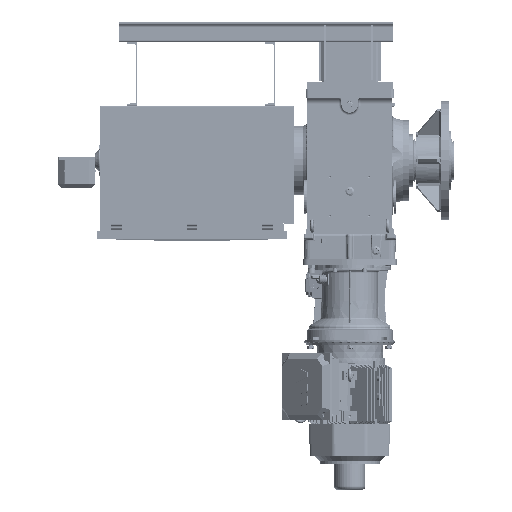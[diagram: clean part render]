
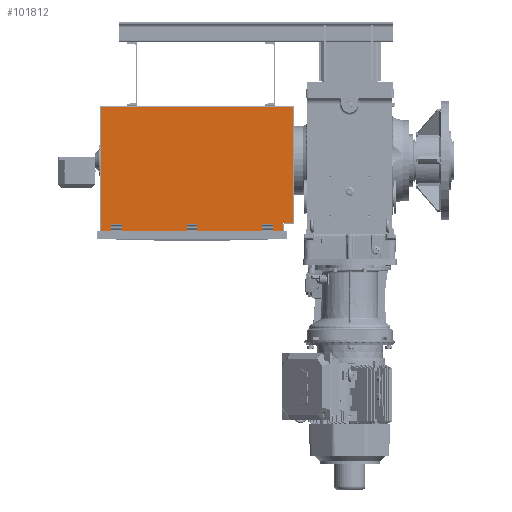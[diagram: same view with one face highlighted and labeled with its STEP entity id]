
A CAD part, top view. The second image highlights one B-rep face of the part: STEP entity #101812.
In plain terms, the highlighted planar face has unit normal (0, 0, 1).
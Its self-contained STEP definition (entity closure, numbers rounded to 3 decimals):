
#4057=LINE('',#155321,#11399);
#4074=LINE('',#155366,#11416);
#4076=LINE('',#155370,#11418);
#4077=LINE('',#155372,#11419);
#4115=LINE('',#155479,#11457);
#4132=LINE('',#155524,#11474);
#4134=LINE('',#155528,#11476);
#4135=LINE('',#155530,#11477);
#4144=LINE('',#155558,#11486);
#4161=LINE('',#155603,#11503);
#4163=LINE('',#155607,#11505);
#4164=LINE('',#155609,#11506);
#4279=LINE('',#155970,#11621);
#4322=LINE('',#156074,#11664);
#4327=LINE('',#156082,#11669);
#4340=LINE('',#156116,#11682);
#4343=LINE('',#156121,#11685);
#4360=LINE('',#156154,#11702);
#4366=LINE('',#156169,#11708);
#4368=LINE('',#156173,#11710);
#4370=LINE('',#156177,#11712);
#4372=LINE('',#156180,#11714);
#4373=LINE('',#156183,#11715);
#4375=LINE('',#156187,#11717);
#4376=LINE('',#156189,#11718);
#4377=LINE('',#156190,#11719);
#11399=VECTOR('',#122782,40.);
#11416=VECTOR('',#122825,40.);
#11418=VECTOR('',#122829,40.);
#11419=VECTOR('',#122832,40.);
#11457=VECTOR('',#122936,40.);
#11474=VECTOR('',#122979,40.);
#11476=VECTOR('',#122983,40.);
#11477=VECTOR('',#122986,40.);
#11486=VECTOR('',#123013,40.);
#11503=VECTOR('',#123056,40.);
#11505=VECTOR('',#123060,40.);
#11506=VECTOR('',#123063,40.);
#11621=VECTOR('',#123400,0.992);
#11664=VECTOR('',#123497,0.992);
#11669=VECTOR('',#123504,596.);
#11682=VECTOR('',#123539,50.);
#11685=VECTOR('',#123544,40.);
#11702=VECTOR('',#123571,49.016);
#11708=VECTOR('',#123593,1.984);
#11710=VECTOR('',#123597,2.976);
#11712=VECTOR('',#123601,2.976);
#11714=VECTOR('',#123605,1.984);
#11715=VECTOR('',#123608,51.016);
#11717=VECTOR('',#123612,448.016);
#11718=VECTOR('',#123613,740.);
#11719=VECTOR('',#123614,498.016);
#19113=PLANE('',#108635);
#21407=FACE_BOUND('',#30188,.T.);
#21408=FACE_BOUND('',#30189,.T.);
#21409=FACE_BOUND('',#30190,.T.);
#24025=FACE_OUTER_BOUND('',#30187,.T.);
#30187=EDGE_LOOP('',(#73394,#73395,#73396,#73397,#73398,#73399,#73400,#73401,
#73402,#73403,#73404,#73405,#73406,#73407));
#30188=EDGE_LOOP('',(#73408,#73409,#73410,#73411));
#30189=EDGE_LOOP('',(#73412,#73413,#73414,#73415));
#30190=EDGE_LOOP('',(#73416,#73417,#73418,#73419));
#44056=VERTEX_POINT('',#155319);
#44057=VERTEX_POINT('',#155320);
#44072=VERTEX_POINT('',#155364);
#44073=VERTEX_POINT('',#155368);
#44108=VERTEX_POINT('',#155477);
#44109=VERTEX_POINT('',#155478);
#44124=VERTEX_POINT('',#155522);
#44125=VERTEX_POINT('',#155526);
#44134=VERTEX_POINT('',#155556);
#44135=VERTEX_POINT('',#155557);
#44150=VERTEX_POINT('',#155601);
#44151=VERTEX_POINT('',#155605);
#44285=VERTEX_POINT('',#155967);
#44286=VERTEX_POINT('',#155969);
#44319=VERTEX_POINT('',#156071);
#44320=VERTEX_POINT('',#156073);
#44331=VERTEX_POINT('',#156114);
#44332=VERTEX_POINT('',#156115);
#44333=VERTEX_POINT('',#156120);
#44344=VERTEX_POINT('',#156153);
#44345=VERTEX_POINT('',#156168);
#44346=VERTEX_POINT('',#156172);
#44347=VERTEX_POINT('',#156176);
#44348=VERTEX_POINT('',#156182);
#44349=VERTEX_POINT('',#156186);
#44350=VERTEX_POINT('',#156188);
#54812=EDGE_CURVE('',#44056,#44057,#4057,.T.);
#54835=EDGE_CURVE('',#44057,#44072,#4074,.T.);
#54837=EDGE_CURVE('',#44073,#44056,#4076,.T.);
#54838=EDGE_CURVE('',#44072,#44073,#4077,.T.);
#54890=EDGE_CURVE('',#44108,#44109,#4115,.T.);
#54913=EDGE_CURVE('',#44109,#44124,#4132,.T.);
#54915=EDGE_CURVE('',#44125,#44108,#4134,.T.);
#54916=EDGE_CURVE('',#44124,#44125,#4135,.T.);
#54929=EDGE_CURVE('',#44134,#44135,#4144,.T.);
#54952=EDGE_CURVE('',#44135,#44150,#4161,.T.);
#54954=EDGE_CURVE('',#44151,#44134,#4163,.T.);
#54955=EDGE_CURVE('',#44150,#44151,#4164,.T.);
#55132=EDGE_CURVE('',#44286,#44285,#4279,.T.);
#55188=EDGE_CURVE('',#44320,#44319,#4322,.T.);
#55193=EDGE_CURVE('',#44319,#44286,#4327,.T.);
#55210=EDGE_CURVE('',#44331,#44332,#4340,.T.);
#55213=EDGE_CURVE('',#44332,#44333,#4343,.T.);
#55230=EDGE_CURVE('',#44331,#44344,#4360,.T.);
#55236=EDGE_CURVE('',#44345,#44320,#4366,.T.);
#55238=EDGE_CURVE('',#44346,#44345,#4368,.T.);
#55240=EDGE_CURVE('',#44347,#44344,#4370,.T.);
#55242=EDGE_CURVE('',#44285,#44347,#4372,.T.);
#55243=EDGE_CURVE('',#44346,#44348,#4373,.T.);
#55245=EDGE_CURVE('',#44349,#44333,#4375,.T.);
#55246=EDGE_CURVE('',#44350,#44349,#4376,.T.);
#55247=EDGE_CURVE('',#44348,#44350,#4377,.T.);
#73394=ORIENTED_EDGE('',*,*,#55213,.T.);
#73395=ORIENTED_EDGE('',*,*,#55245,.F.);
#73396=ORIENTED_EDGE('',*,*,#55246,.F.);
#73397=ORIENTED_EDGE('',*,*,#55247,.F.);
#73398=ORIENTED_EDGE('',*,*,#55243,.F.);
#73399=ORIENTED_EDGE('',*,*,#55238,.T.);
#73400=ORIENTED_EDGE('',*,*,#55236,.T.);
#73401=ORIENTED_EDGE('',*,*,#55188,.T.);
#73402=ORIENTED_EDGE('',*,*,#55193,.T.);
#73403=ORIENTED_EDGE('',*,*,#55132,.T.);
#73404=ORIENTED_EDGE('',*,*,#55242,.T.);
#73405=ORIENTED_EDGE('',*,*,#55240,.T.);
#73406=ORIENTED_EDGE('',*,*,#55230,.F.);
#73407=ORIENTED_EDGE('',*,*,#55210,.T.);
#73408=ORIENTED_EDGE('',*,*,#54812,.T.);
#73409=ORIENTED_EDGE('',*,*,#54835,.T.);
#73410=ORIENTED_EDGE('',*,*,#54838,.T.);
#73411=ORIENTED_EDGE('',*,*,#54837,.T.);
#73412=ORIENTED_EDGE('',*,*,#54890,.T.);
#73413=ORIENTED_EDGE('',*,*,#54913,.T.);
#73414=ORIENTED_EDGE('',*,*,#54916,.T.);
#73415=ORIENTED_EDGE('',*,*,#54915,.T.);
#73416=ORIENTED_EDGE('',*,*,#54929,.T.);
#73417=ORIENTED_EDGE('',*,*,#54952,.T.);
#73418=ORIENTED_EDGE('',*,*,#54955,.T.);
#73419=ORIENTED_EDGE('',*,*,#54954,.T.);
#101812=ADVANCED_FACE('',(#24025,#21407,#21408,#21409),#19113,.T.);
#108635=AXIS2_PLACEMENT_3D('',#156185,#123610,#123611);
#122782=DIRECTION('',(0.,1.,0.));
#122825=DIRECTION('',(1.,0.,0.));
#122829=DIRECTION('',(-1.,0.,0.));
#122832=DIRECTION('',(0.,-1.,0.));
#122936=DIRECTION('',(0.,1.,0.));
#122979=DIRECTION('',(1.,0.,0.));
#122983=DIRECTION('',(-1.,0.,0.));
#122986=DIRECTION('',(0.,-1.,0.));
#123013=DIRECTION('',(0.,1.,0.));
#123056=DIRECTION('',(1.,0.,0.));
#123060=DIRECTION('',(-1.,0.,0.));
#123063=DIRECTION('',(0.,-1.,0.));
#123400=DIRECTION('',(0.,1.,0.));
#123497=DIRECTION('',(0.,-1.,0.));
#123504=DIRECTION('',(1.,0.,0.));
#123539=DIRECTION('',(0.,1.,0.));
#123544=DIRECTION('',(1.,0.,0.));
#123571=DIRECTION('',(-1.,0.,0.));
#123593=DIRECTION('',(1.,0.,0.));
#123597=DIRECTION('',(0.,1.,0.));
#123601=DIRECTION('',(0.,-1.,0.));
#123605=DIRECTION('',(1.,0.,0.));
#123608=DIRECTION('',(-1.,0.,0.));
#123610=DIRECTION('center_axis',(0.,0.,
1.));
#123611=DIRECTION('ref_axis',(0.,-1.,0.));
#123612=DIRECTION('',(0.,-1.,0.));
#123613=DIRECTION('',(1.,0.,0.));
#123614=DIRECTION('',(0.,1.,0.));
#155319=CARTESIAN_POINT('',(-1044.132,-494.632,676.738));
#155320=CARTESIAN_POINT('',(-1044.132,-454.632,676.738));
#155321=CARTESIAN_POINT('',(-1044.132,-358.639,676.738));
#155364=CARTESIAN_POINT('',(-1004.132,-454.632,676.738));
#155366=CARTESIAN_POINT('',(-869.411,-454.632,676.738));
#155368=CARTESIAN_POINT('',(-1004.132,-494.632,676.738));
#155370=CARTESIAN_POINT('',(-869.411,-494.632,676.738));
#155372=CARTESIAN_POINT('',(-1004.132,-358.639,676.738));
#155477=CARTESIAN_POINT('',(-754.132,-494.632,676.738));
#155478=CARTESIAN_POINT('',(-754.132,-454.632,676.738));
#155479=CARTESIAN_POINT('',(-754.132,-358.639,676.738));
#155522=CARTESIAN_POINT('',(-714.132,-454.632,676.738));
#155524=CARTESIAN_POINT('',(-724.411,-454.632,676.738));
#155526=CARTESIAN_POINT('',(-714.132,-494.632,676.738));
#155528=CARTESIAN_POINT('',(-724.411,-494.632,676.738));
#155530=CARTESIAN_POINT('',(-714.132,-358.639,676.738));
#155556=CARTESIAN_POINT('',(-464.132,-494.632,676.738));
#155557=CARTESIAN_POINT('',(-464.132,-454.632,676.738));
#155558=CARTESIAN_POINT('',(-464.132,-358.639,676.738));
#155601=CARTESIAN_POINT('',(-424.132,-454.632,676.738));
#155603=CARTESIAN_POINT('',(-579.411,-454.632,676.738));
#155605=CARTESIAN_POINT('',(-424.132,-494.632,676.738));
#155607=CARTESIAN_POINT('',(-579.411,-494.632,676.738));
#155609=CARTESIAN_POINT('',(-424.132,-358.639,676.738));
#155967=CARTESIAN_POINT('',(-435.69,-497.795,676.738));
#155969=CARTESIAN_POINT('',(-435.69,-498.787,676.738));
#155970=CARTESIAN_POINT('',(-435.69,-374.283,676.738));
#156071=CARTESIAN_POINT('',(-1031.69,-498.787,676.738));
#156073=CARTESIAN_POINT('',(-1031.69,-497.795,676.738));
#156074=CARTESIAN_POINT('',(-1031.69,-375.771,676.738));
#156082=CARTESIAN_POINT('',(-873.19,-498.787,676.738));
#156114=CARTESIAN_POINT('',(-384.69,-500.771,676.738));
#156115=CARTESIAN_POINT('',(-384.69,-450.771,676.738));
#156116=CARTESIAN_POINT('',(-384.69,-375.771,676.738));
#156120=CARTESIAN_POINT('',(-344.69,-450.771,676.738));
#156121=CARTESIAN_POINT('',(-549.69,-450.771,676.738));
#156153=CARTESIAN_POINT('',(-433.706,-500.771,676.738));
#156154=CARTESIAN_POINT('',(-344.69,-500.771,676.738));
#156168=CARTESIAN_POINT('',(-1033.674,-497.795,676.738));
#156169=CARTESIAN_POINT('',(-873.19,-497.795,676.738));
#156172=CARTESIAN_POINT('',(-1033.674,-500.771,676.738));
#156173=CARTESIAN_POINT('',(-1033.674,-374.283,676.738));
#156176=CARTESIAN_POINT('',(-433.706,-497.795,676.738));
#156177=CARTESIAN_POINT('',(-433.706,-375.771,676.738));
#156180=CARTESIAN_POINT('',(-574.198,-497.795,676.738));
#156182=CARTESIAN_POINT('',(-1084.69,-500.771,676.738));
#156183=CARTESIAN_POINT('',(-344.69,-500.771,676.738));
#156185=CARTESIAN_POINT('Origin',(-714.69,-250.771,676.738));
#156186=CARTESIAN_POINT('',(-344.69,-2.755,676.738));
#156187=CARTESIAN_POINT('',(-344.69,-0.771,676.738));
#156188=CARTESIAN_POINT('',(-1084.69,-2.755,676.738));
#156189=CARTESIAN_POINT('',(-344.69,-2.755,676.738));
#156190=CARTESIAN_POINT('',(-1084.69,-500.771,676.738));
